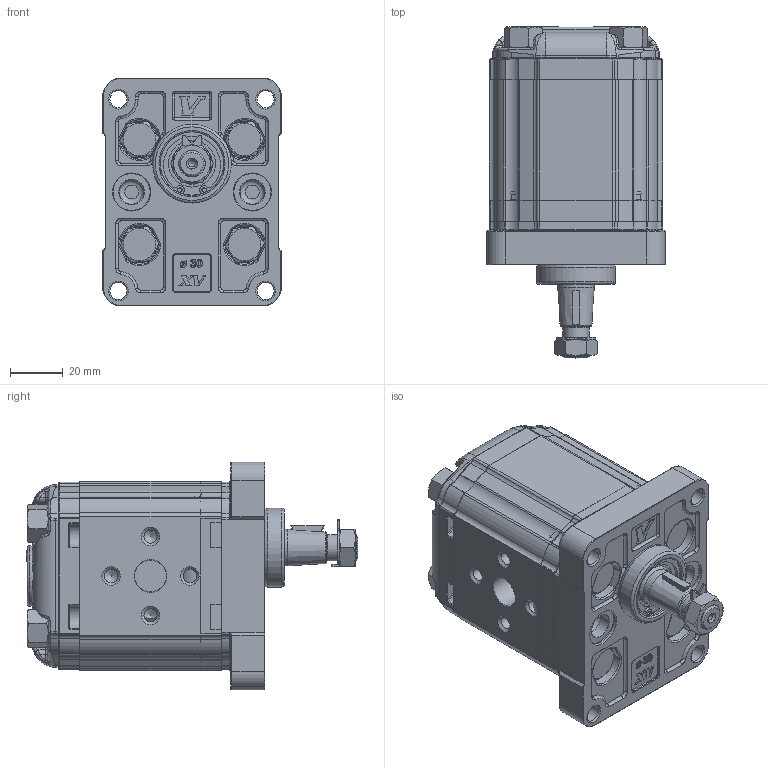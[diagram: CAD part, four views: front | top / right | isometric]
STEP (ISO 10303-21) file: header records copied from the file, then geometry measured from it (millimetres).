
FILE_DESCRIPTION( ( 'Unknown' ), '1' );
FILE_NAME( 'P:/montaggio_easy/output/STP/X1P2711GIIA.stp', 'Unknown', ( 'Unknown' ), ( 'Unknown' ), 'PSStep 14.0', 'Unknown', ' ' );
FILE_SCHEMA( ( 'AUTOMOTIVE_DESIGN { 1 0 10303 214 1 1 1 1 }' ) );
Length unit declared in the file: millimetre
Products named in the file (5): Assem1; X1P11; 1G; X1IIH54; XP113-A
Bounding box: 68 x 126.4 x 86.7 mm (x, y, z)
Volume: 741776.8 mm3; surface area: 152789.8 mm2
Topology: 8 solids, 10 shells, 3956 faces, 10140 edges, 6410 vertices
Faces by surface type: plane 1712, cylinder 1038, torus 442, extrusion 304, cone 232, bspline 212, sphere 16
Full cylindrical faces by diameter (mm): 1.678 x4, 2.5 x2, 3 x10, 5 x16, 6.5 x8, 8 x16, 8.5 x12, 9 x4, 9.3 x4, 10 x4, 10.25 x2, 10.5 x4, 12 x12, 13.955 x2, 14 x4, 14.5 x4, 14.923 x2, 17.115 x2, 17.833 x2, 20 x2, 22 x2, 24 x4, 24.2 x2, 25.5 x2, 30 x2
Entity records: 82472 total; most frequent: CARTESIAN_POINT 19929, ORIENTED_EDGE 9630, DIRECTION 9487, EDGE_CURVE 4815, AXIS2_PLACEMENT_3D 3398, VERTEX_POINT 3133, VECTOR 2691, LINE 2539
